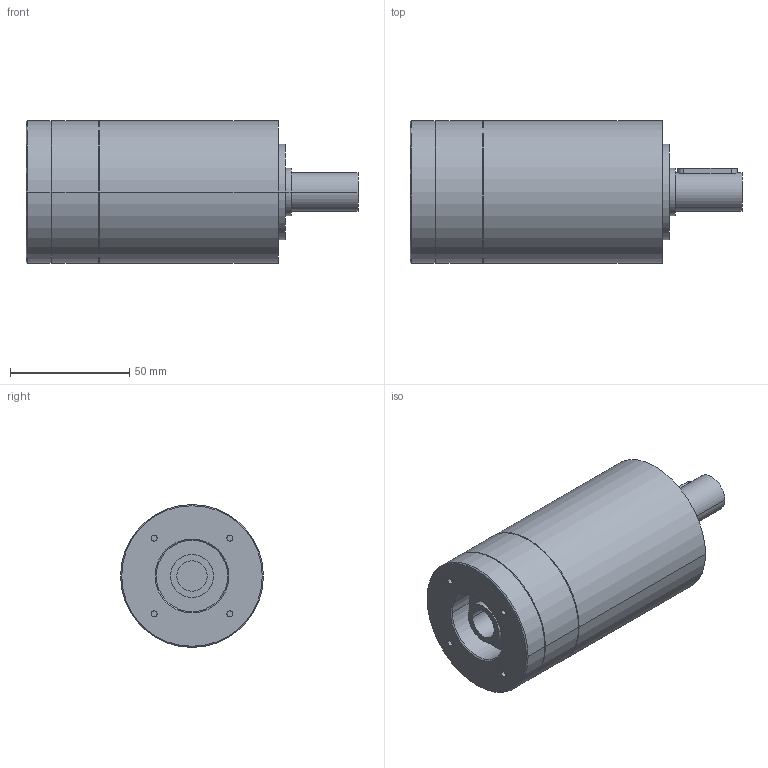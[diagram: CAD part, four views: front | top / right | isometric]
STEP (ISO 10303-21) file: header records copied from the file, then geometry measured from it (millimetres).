
FILE_DESCRIPTION(('CoCreate Modeling STEP Export'),'2;1');
FILE_NAME('GPR75_ig-9-12-16-20-24-30-36_16_B14_12.7_P29.stp','2014-08-25T16:02:01',(''),(''),'CoCreate Modeling STEP processor for AP214 (Solid Model)','CoCreate Modeling 16.00C 25-Feb-2009 (C) Parametric Technology GmbH','');
FILE_SCHEMA(('AUTOMOTIVE_DESIGN { 1 0 10303 214 1 1 1 1 }'));
Length unit declared in the file: millimetre
Products named in the file (2): GPR75_ig-9-12-16-20-24-30-36_16_B14_12.7_P29
Assembly tree (1 placements, depth 2):
  GPR75_ig-9-12-16-20-24-30-36_16_B14_12.7_P29
    GPR75_ig-9-12-16-20-24-30-36_16_B14_12.7_P29
Bounding box: 139.4 x 60 x 60 mm (x, y, z)
Volume: 299256.7 mm3; surface area: 31388.4 mm2
Topology: 1 solids, 1 shells, 69 faces, 170 edges, 118 vertices
Faces by surface type: cylinder 38, plane 21, cone 10
Entity records: 1736 total; most frequent: ORIENTED_EDGE 336, CARTESIAN_POINT 322, DIRECTION 226, EDGE_CURVE 168, VERTEX_POINT 118, AXIS2_PLACEMENT_3D 86, EDGE_LOOP 86, FACE_OUTER_BOUND 69
